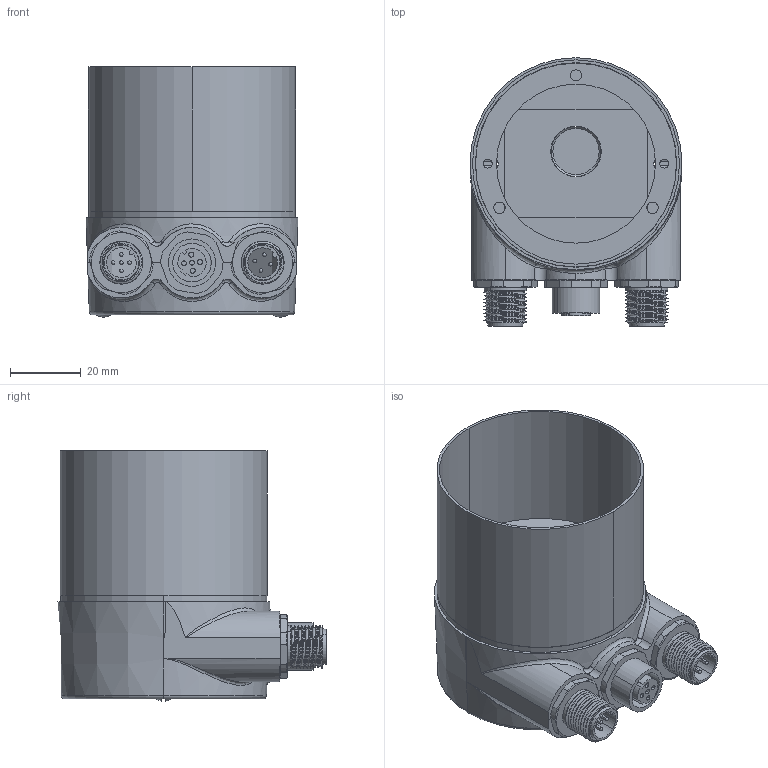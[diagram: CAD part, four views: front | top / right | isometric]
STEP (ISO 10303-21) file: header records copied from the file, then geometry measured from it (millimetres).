
FILE_DESCRIPTION (( 'STEP AP214' ), '1' );
FILE_NAME ('Drawing-OC-5-TC-430-SZM-HCCNNN-Y-H72-N.STEP', '2015-09-08T10:49:19', ( '' ), ( '' ), 'SwSTEP 2.0', 'SolidWorks 2015', '' );
FILE_SCHEMA (( 'AUTOMOTIVE_DESIGN' ));
Length unit declared in the file: millimetre
Products named in the file (1): Drawing-OC-5-TC-430-SZM-HCCNNN-Y-H72-N
Bounding box: 60 x 76 x 70.9 mm (x, y, z)
Surface area: 29801.1 mm2 (no closed solid volume)
Topology: 0 solids, 23 shells, 263 faces, 748 edges, 488 vertices
Faces by surface type: cylinder 136, plane 63, cone 35, bspline 14, sphere 9, torus 6
Entity records: 14292 total; most frequent: CARTESIAN_POINT 5130, DIRECTION 1288, ORIENTED_EDGE 1273, EDGE_CURVE 712, AXIS2_PLACEMENT_3D 514, VERTEX_POINT 470, EDGE_LOOP 290, UNCERTAINTY_MEASURE_WITH_UNIT 265
